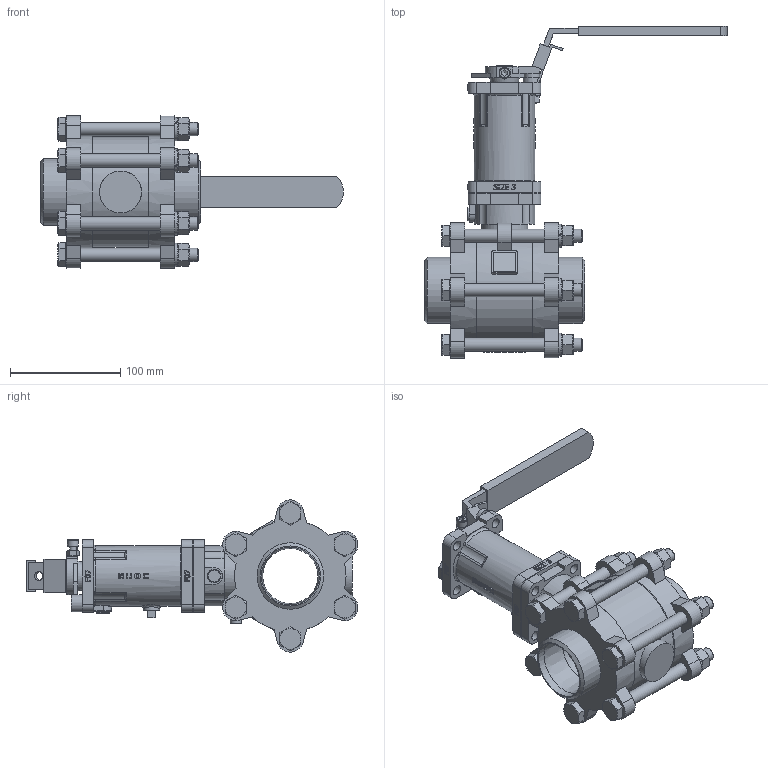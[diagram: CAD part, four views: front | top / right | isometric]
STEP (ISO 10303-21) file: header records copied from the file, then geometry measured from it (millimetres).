
FILE_DESCRIPTION(/* description */ ('Eriks item no: 14229946'),/* implementation_level */ '2;1');
FILE_NAME(/* name */ 'L:\DATA\ENG\Inventor\Econ 3D modellen\kogelkranen\7642 +7412\7642-DN50-FB + 7412-size3.stp',/* time_stamp */ '2024-01-22T16:06:40+01:00',/* author */ ('roger.thijssen'),/* organization */ (''),/* preprocessor_version */ 'ST-DEVELOPER v18',/* originating_system */ 'Autodesk Inventor 2020',/* authorisation */ '');
FILE_SCHEMA (('CONFIG_CONTROL_DESIGN'));
Length unit declared in the file: millimetre
Products named in the file (1): Ball valve + stem ext., 7642-DN50-FB + 7412-size3
Bounding box: 274.5 x 300.83 x 137.91 mm (x, y, z)
Volume: 1210024.5 mm3; surface area: 207352.7 mm2
Topology: 2 solids, 2 shells, 1207 faces, 3281 edges, 2151 vertices
Faces by surface type: plane 702, cylinder 224, bspline 174, cone 89, torus 17, sphere 1
Full cylindrical faces by diameter (mm): 5 x1, 6 x1, 6.4 x1, 8 x3, 8.6 x1, 8.9 x1, 9 x13, 10 x2, 12 x14, 13 x14, 15 x1, 15.5 x1, 17.4 x6, 19.05 x1, 20 x1, 28 x1, 38 x1, 42 x1, 50 x1, 52.5 x2, 55 x2, 60.3 x2, 100 x1, 101 x2
Entity records: 43234 total; most frequent: CARTESIAN_POINT 12477, ORIENTED_EDGE 6542, DIRECTION 5609, EDGE_CURVE 3271, VERTEX_POINT 2151, AXIS2_PLACEMENT_3D 1892, LINE 1825, VECTOR 1825
